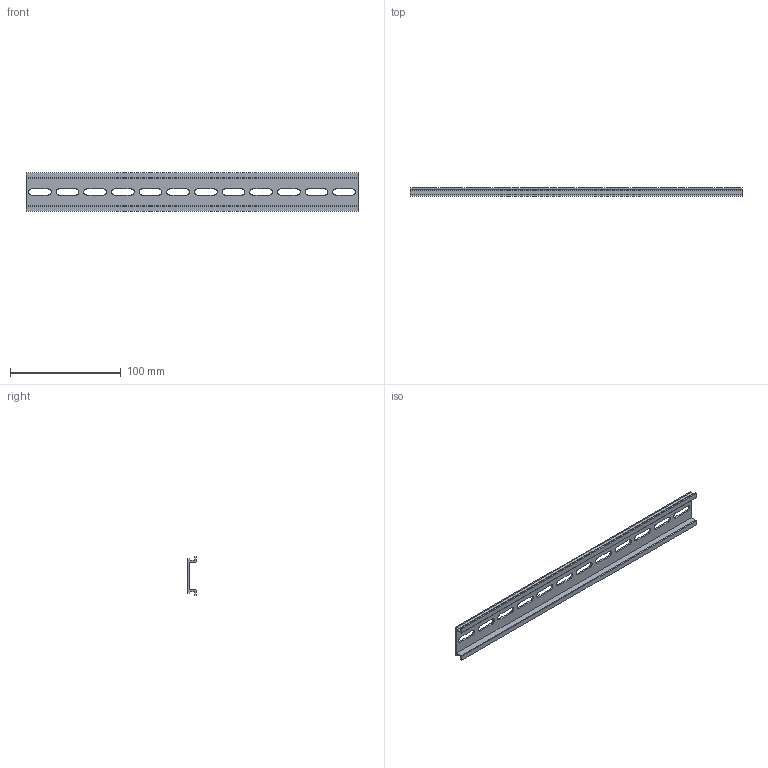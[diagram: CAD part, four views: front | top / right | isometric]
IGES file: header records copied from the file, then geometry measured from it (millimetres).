
Start section: ------------------------------------------------------------------------
Global section: file name: D:\ICADMX\tmp\trans3d_spg\CVICAD02.21224.DIN-RAIL300_7818.igs; native system: spGate; preprocessor: ver12.6.6; author: Unknown; organization: Unknown; date: 200901.142033; units: millimetre
Bounding box: 300 x 7.5 x 35 mm (x, y, z)
Volume: 21179.5 mm3; surface area: 28363.7 mm2
Topology: 1 solids, 1 shells, 68 faces, 198 edges, 132 vertices
Faces by surface type: bspline 68
